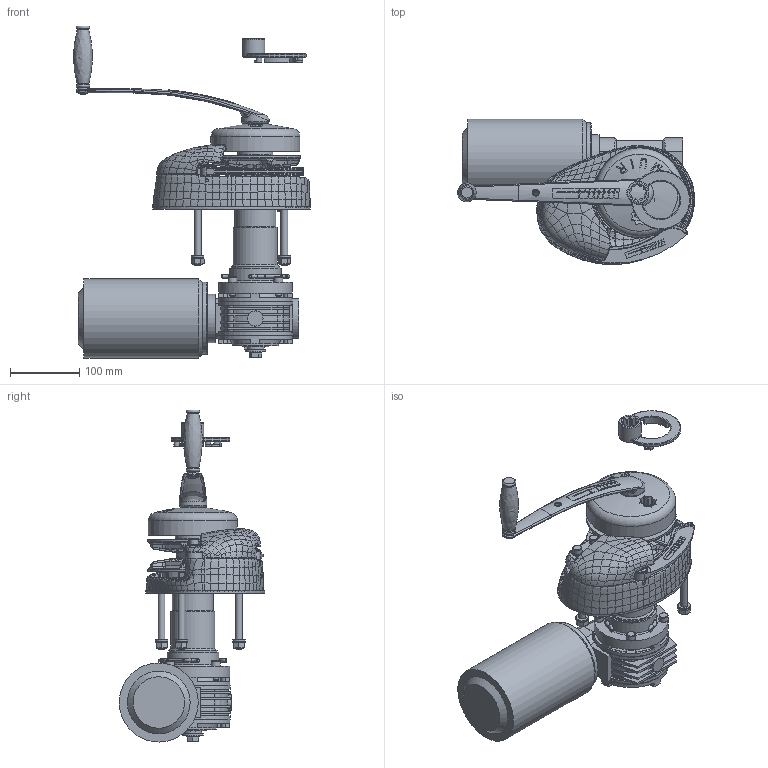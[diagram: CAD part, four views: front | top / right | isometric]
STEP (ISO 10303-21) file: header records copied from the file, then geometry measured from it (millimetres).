
FILE_DESCRIPTION(/* description */ (''),/* implementation_level */ '2;1');
FILE_NAME(/* name */ 'VR1250 - 6-8-10mm.stp',/* time_stamp */ '2025-11-28T08:30:44+11:00',/* author */ ('markus.mendgen'),/* organization */ (''),/* preprocessor_version */ 'ST-DEVELOPER v20',/* originating_system */ 'Autodesk Inventor 2025',/* authorisation */ '');
FILE_SCHEMA (('AUTOMOTIVE_DESIGN { 1 0 10303 214 3 1 1 }'));
Length unit declared in the file: millimetre
Products named in the file (1): U001004_Simplify
Bounding box: 343.43 x 210.82 x 481.11 mm (x, y, z)
Volume: 4664336.9 mm3; surface area: 597855.8 mm2
Topology: 5 solids, 6 shells, 4992 faces, 12878 edges, 7822 vertices
Faces by surface type: bspline 2057, cylinder 1154, plane 1110, torus 364, sphere 168, cone 139
Full cylindrical faces by diameter (mm): 2 x4, 5 x1, 7.875 x1, 8 x10, 9 x2, 10 x10, 12.2 x1, 13 x7, 15.75 x1, 17 x1, 18 x3, 19 x1, 22 x1, 24.95 x2, 25.06 x1, 25.1 x1, 26.5 x1, 27 x1, 28 x1, 30 x1, 32 x1, 35.05 x1, 36.05 x1, 36.2 x1, 36.6 x1, 40 x2, 44.2 x1, 48.05 x1, 48.4 x1, 50.8 x1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
Entity records: 403505 total; most frequent: CARTESIAN_POINT 298536, ORIENTED_EDGE 25442, DIRECTION 16264, EDGE_CURVE 12723, VERTEX_POINT 7817, AXIS2_PLACEMENT_3D 6417, B_SPLINE_CURVE_WITH_KNOTS 5690, EDGE_LOOP 5134
